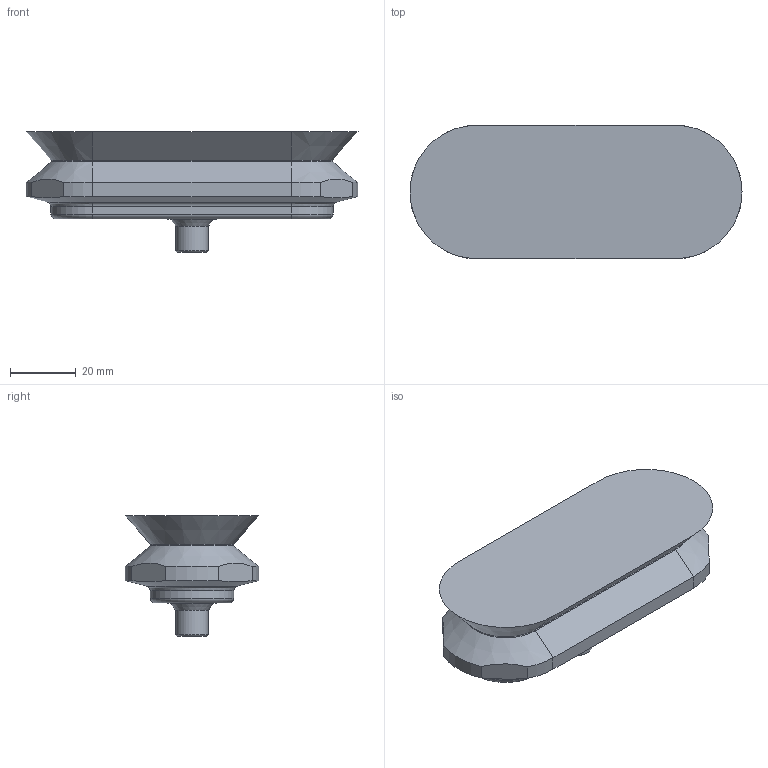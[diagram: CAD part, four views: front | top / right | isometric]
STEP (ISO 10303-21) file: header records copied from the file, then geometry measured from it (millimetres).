
FILE_DESCRIPTION((''),'2;1');
FILE_NAME('W:\Technik\Konstruktion\CAD-Daten\Kundenmodelle\130.100x40.096_Kd.stp','2010-10-08T15:25:46',('WMiller'),(''),'Autodesk Inventor 2009','Autodesk Inventor 2009','');
FILE_SCHEMA(('AUTOMOTIVE_DESIGN { 1 0 10303 214 1 1 1 1 }'));
Length unit declared in the file: millimetre
Products named in the file (5): 130.100x40
Assembly tree (4 placements, depth 2):
  130.100x40
    130.100x40
    130.100x40
    130.100x40
    130.100x40
Bounding box: 101 x 40.6 x 36.8 mm (x, y, z)
Volume: 53629.5 mm3; surface area: 30458.7 mm2
Topology: 4 solids, 4 shells, 130 faces, 315 edges, 198 vertices
Faces by surface type: plane 61, cylinder 31, bspline 20, cone 14, torus 4
Full cylindrical faces by diameter (mm): 3 x1, 4 x1, 8.2 x1, 10 x2, 10.2 x1, 13.5 x1, 15 x3
Entity records: 4177 total; most frequent: CARTESIAN_POINT 1077, DIRECTION 606, ORIENTED_EDGE 592, EDGE_CURVE 296, AXIS2_PLACEMENT_3D 211, VERTEX_POINT 196, VECTOR 184, LINE 184
